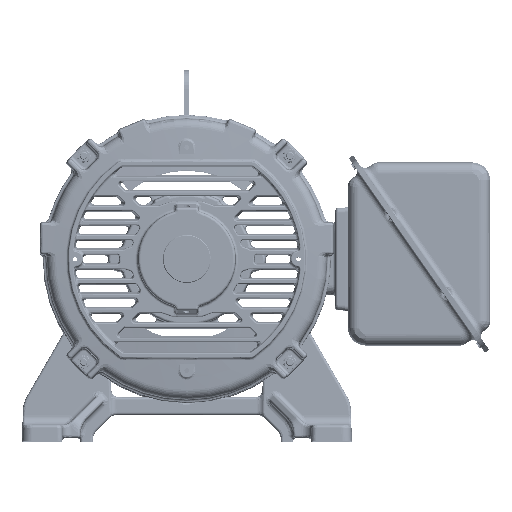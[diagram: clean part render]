
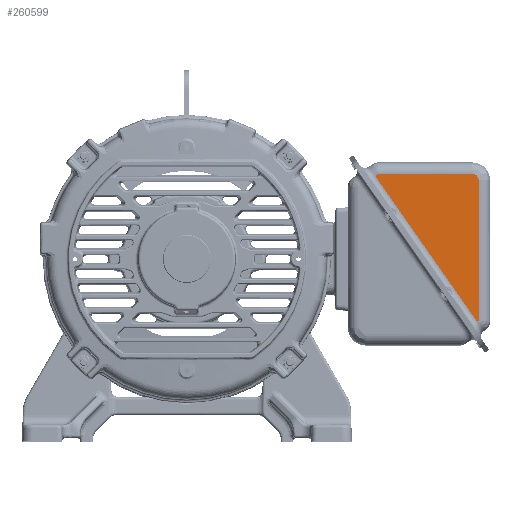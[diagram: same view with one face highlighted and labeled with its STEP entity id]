
A CAD part, top view. The second image highlights one B-rep face of the part: STEP entity #260599.
In plain terms, the highlighted planar face has unit normal (0, 0, 1) as drawn and (-1, 0, 0) by its records, which use the part's own axes.
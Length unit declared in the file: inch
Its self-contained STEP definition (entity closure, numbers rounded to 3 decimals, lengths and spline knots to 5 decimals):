
#257948=DIRECTION('',(0.,-0.819,0.574));
#257949=VECTOR('',#257948,8.75);
#257950=CARTESIAN_POINT('',(-4.0598,3.58782,0.63346));
#257951=LINE('',#257950,#257949);
#257952=DIRECTION('',(0.,0.574,0.819));
#257953=VECTOR('',#257952,0.1922);
#257954=CARTESIAN_POINT('',(-4.0598,-3.69,5.49481));
#257955=LINE('',#257954,#257953);
#257956=DIRECTION('',(0.,0.,1.));
#257957=VECTOR('',#257956,4.62501);
#257958=CARTESIAN_POINT('',(-4.0598,-3.69,0.8698));
#257959=LINE('',#257958,#257957);
#257960=CARTESIAN_POINT('',(-4.0598,-3.3802,0.8698));
#257961=DIRECTION('',(-1.,0.,0.));
#257962=DIRECTION('',(0.,0.,-1.));
#257963=AXIS2_PLACEMENT_3D('',#257960,#257961,#257962);
#257965=DIRECTION('',(0.,-1.,0.));
#257966=VECTOR('',#257965,6.91659);
#257967=CARTESIAN_POINT('',(-4.0598,3.53639,0.56));
#257968=LINE('',#257967,#257966);
#257969=DIRECTION('',(0.,-0.574,-0.819));
#257970=VECTOR('',#257969,0.08967);
#257971=CARTESIAN_POINT('',(-4.0598,3.58782,0.63346));
#257972=LINE('',#257971,#257970);
#259915=CARTESIAN_POINT('',(-4.0598,3.53639,0.56));
#259958=CARTESIAN_POINT('',(-4.0598,-3.69,5.49481));
#260328=CARTESIAN_POINT('',(-4.0598,-3.3802,0.56));
#260329=CARTESIAN_POINT('',(-4.0598,-3.69,0.8698));
#260330=VERTEX_POINT('',#260328);
#260331=VERTEX_POINT('',#260329);
#260337=VERTEX_POINT('',#259915);
#260345=VERTEX_POINT('',#259958);
#260362=CARTESIAN_POINT('',(-4.0598,3.58782,0.63346));
#260363=VERTEX_POINT('',#260362);
#260368=CARTESIAN_POINT('',(-4.0598,-3.57976,5.65225));
#260369=VERTEX_POINT('',#260368);
#260580=CARTESIAN_POINT('',(-4.0598,0.,0.));
#260581=DIRECTION('',(1.,0.,0.));
#260582=DIRECTION('',(0.,0.,-1.));
#260583=AXIS2_PLACEMENT_3D('',#260580,#260581,#260582);
#260584=PLANE('',#260583);
#260586=ORIENTED_EDGE('',*,*,#260585,.T.);
#260588=ORIENTED_EDGE('',*,*,#260587,.F.);
#260590=ORIENTED_EDGE('',*,*,#260589,.F.);
#260592=ORIENTED_EDGE('',*,*,#260591,.F.);
#260594=ORIENTED_EDGE('',*,*,#260593,.F.);
#260596=ORIENTED_EDGE('',*,*,#260595,.F.);
#260597=EDGE_LOOP('',(#260586,#260588,#260590,#260592,#260594,#260596));
#260598=FACE_OUTER_BOUND('',#260597,.F.);
#260599=ADVANCED_FACE('',(#260598),#260584,.F.);
#257964=CIRCLE('',#257963,0.3098);
#260585=EDGE_CURVE('',#260363,#260369,#257951,.T.);
#260587=EDGE_CURVE('',#260345,#260369,#257955,.T.);
#260589=EDGE_CURVE('',#260331,#260345,#257959,.T.);
#260591=EDGE_CURVE('',#260330,#260331,#257964,.T.);
#260593=EDGE_CURVE('',#260337,#260330,#257968,.T.);
#260595=EDGE_CURVE('',#260363,#260337,#257972,.T.);
